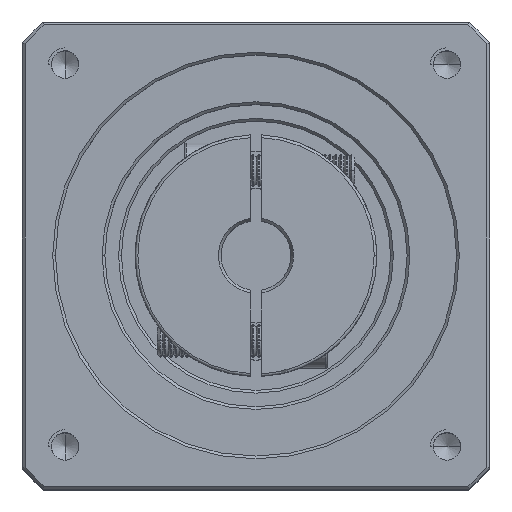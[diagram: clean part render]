
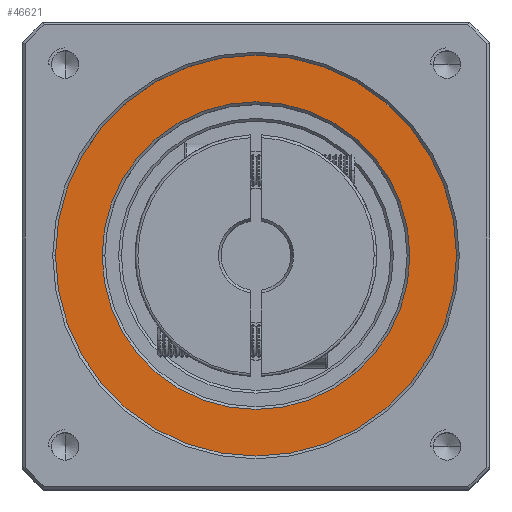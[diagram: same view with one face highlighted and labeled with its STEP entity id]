
A CAD part, top view. The second image highlights one B-rep face of the part: STEP entity #46621.
In plain terms, the highlighted planar face has unit normal (0, 0, 1).
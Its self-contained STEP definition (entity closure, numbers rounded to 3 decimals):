
#3301 = FACE_BOUND ( 'NONE', #45138, .T. ) ;
#5735 = CARTESIAN_POINT ( 'NONE',  ( 24.696, 4.37, 99.75 ) ) ;
#14728 = DIRECTION ( 'NONE',  ( 1., 0., 0. ) ) ;
#16505 = AXIS2_PLACEMENT_3D ( 'NONE', #39758, #102463, #48792 ) ;
#16579 = CARTESIAN_POINT ( 'NONE',  ( 24.696, 4.37, 99.75 ) ) ;
#20665 = EDGE_CURVE ( 'NONE', #26128, #93968, #26052, .T. ) ;
#22353 = EDGE_CURVE ( 'NONE', #31854, #114787, #52409, .T. ) ;
#24577 = EDGE_CURVE ( 'NONE', #93968, #26128, #112025, .T. ) ;
#25614 = DIRECTION ( 'NONE',  ( 1., 0., 0. ) ) ;
#26052 = CIRCLE ( 'NONE', #90358, 28. ) ;
#26128 = VERTEX_POINT ( 'NONE', #62930 ) ;
#28868 = ORIENTED_EDGE ( 'NONE', *, *, #44369, .T. ) ;
#29366 = EDGE_LOOP ( 'NONE', ( #28868, #86135 ) ) ;
#29953 = FACE_OUTER_BOUND ( 'NONE', #29366, .T. ) ;
#31854 = VERTEX_POINT ( 'NONE', #60506 ) ;
#34024 = AXIS2_PLACEMENT_3D ( 'NONE', #5735, #68391, #14728 ) ;
#36367 = CIRCLE ( 'NONE', #34024, 36.5 ) ;
#36413 = DIRECTION ( 'NONE',  ( 0., 0., 1. ) ) ;
#36987 = CARTESIAN_POINT ( 'NONE',  ( 24.696, 4.37, 99.75 ) ) ;
#39758 = CARTESIAN_POINT ( 'NONE',  ( 24.696, 4.37, 99.75 ) ) ;
#44253 = ORIENTED_EDGE ( 'NONE', *, *, #20665, .T. ) ;
#44369 = EDGE_CURVE ( 'NONE', #114787, #31854, #36367, .T. ) ;
#45138 = EDGE_LOOP ( 'NONE', ( #115289, #44253 ) ) ;
#46005 = DIRECTION ( 'NONE',  ( 1., 0., 0. ) ) ;
#46621 = ADVANCED_FACE ( 'NONE', ( #29953, #3301 ), #96917, .T. ) ;
#48792 = DIRECTION ( 'NONE',  ( 1., 0., 0. ) ) ;
#52409 = CIRCLE ( 'NONE', #101872, 36.5 ) ;
#60506 = CARTESIAN_POINT ( 'NONE',  ( -11.804, 4.37, 99.75 ) ) ;
#62930 = CARTESIAN_POINT ( 'NONE',  ( -3.304, 4.37, 99.75 ) ) ;
#66194 = CARTESIAN_POINT ( 'NONE',  ( 61.196, 4.37, 99.75 ) ) ;
#68391 = DIRECTION ( 'NONE',  ( 0., 0., 1. ) ) ;
#68750 = AXIS2_PLACEMENT_3D ( 'NONE', #16579, #79269, #25614 ) ;
#69940 = CARTESIAN_POINT ( 'NONE',  ( 52.696, 4.37, 99.75 ) ) ;
#79269 = DIRECTION ( 'NONE',  ( 0., 0., 1. ) ) ;
#86135 = ORIENTED_EDGE ( 'NONE', *, *, #22353, .T. ) ;
#90076 = CARTESIAN_POINT ( 'NONE',  ( 24.696, 4.37, 99.75 ) ) ;
#90358 = AXIS2_PLACEMENT_3D ( 'NONE', #36987, #99670, #46005 ) ;
#93968 = VERTEX_POINT ( 'NONE', #69940 ) ;
#96917 = PLANE ( 'NONE',  #68750 ) ;
#99092 = DIRECTION ( 'NONE',  ( 1., 0., 0. ) ) ;
#99670 = DIRECTION ( 'NONE',  ( 0., 0., -1. ) ) ;
#101872 = AXIS2_PLACEMENT_3D ( 'NONE', #90076, #36413, #99092 ) ;
#102463 = DIRECTION ( 'NONE',  ( 0., 0., -1. ) ) ;
#112025 = CIRCLE ( 'NONE', #16505, 28. ) ;
#114787 = VERTEX_POINT ( 'NONE', #66194 ) ;
#115289 = ORIENTED_EDGE ( 'NONE', *, *, #24577, .T. ) ;
